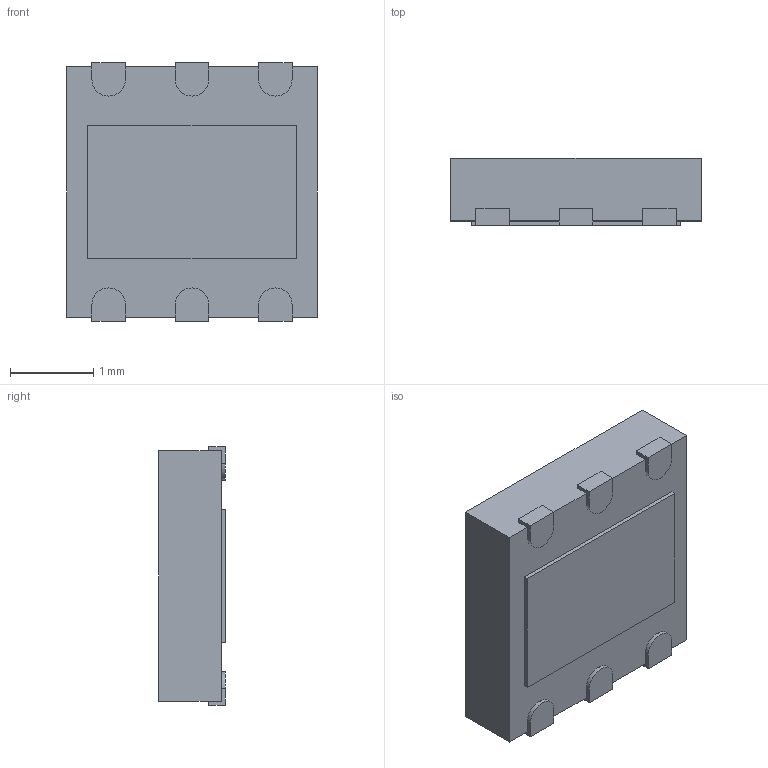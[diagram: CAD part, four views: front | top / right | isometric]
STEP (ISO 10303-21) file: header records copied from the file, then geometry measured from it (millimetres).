
FILE_DESCRIPTION (( 'STEP AP214' ), '1' );
FILE_NAME ( 'SON7P100_300X300X80L40X40T250X160.STEP', '2021-10-06T06:49:12', ( '' ), ( '' ), '', '©2017 PCB Libraries, Inc.', '' );
FILE_SCHEMA (( 'AUTOMOTIVE_DESIGN' ));
Length unit declared in the file: millimetre
Products named in the file (1): SON7P100_300X300X80L40X40T250X160
Bounding box: 3 x 0.8 x 3.1 mm (x, y, z)
Volume: 7 mm3; surface area: 38.4 mm2
Topology: 8 solids, 8 shells, 69 faces, 156 edges, 104 vertices
Faces by surface type: plane 55, cylinder 12, torus 2
Entity records: 2229 total; most frequent: CARTESIAN_POINT 330, DIRECTION 326, ORIENTED_EDGE 312, EDGE_CURVE 156, VECTOR 126, LINE 126, VERTEX_POINT 104, AXIS2_PLACEMENT_3D 100
